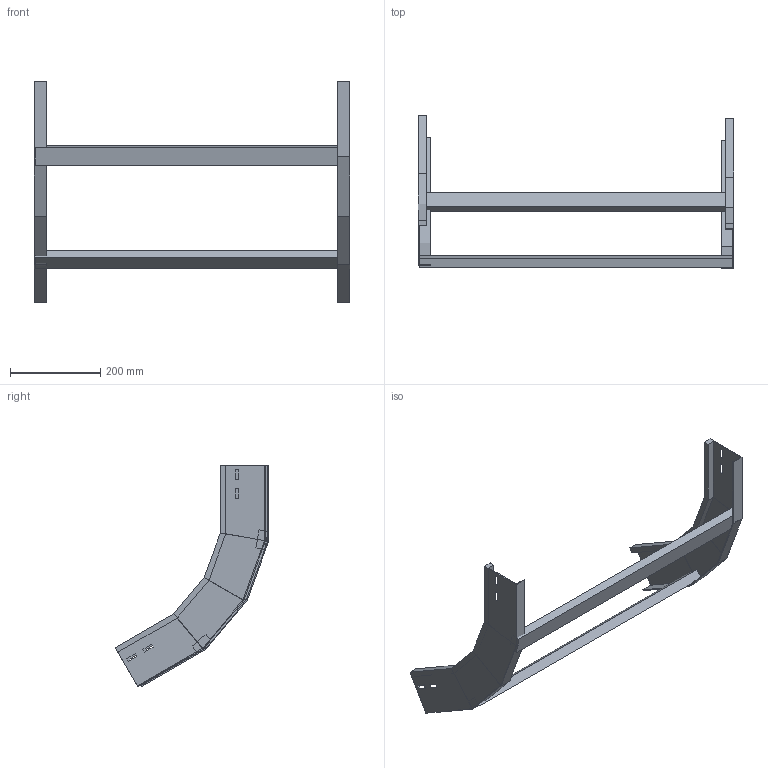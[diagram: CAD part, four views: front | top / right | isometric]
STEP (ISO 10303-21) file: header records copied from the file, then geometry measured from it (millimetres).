
FILE_DESCRIPTION (( 'STEP AP214' ), '1' );
FILE_NAME ('A2X40B3D700XX.step', '2025-04-02T09:48:44', ( '' ), ( '' ), 'SwSTEP 2.0', 'SolidWorks 2023', '' );
FILE_SCHEMA (( 'AUTOMOTIVE_DESIGN' ));
Length unit declared in the file: millimetre
Products named in the file (3): LONGH.SALITA_60°_H100_R300; TRAVERSINO_700; A2X40B3D700XX
Assembly tree (4 placements, depth 2):
  A2X40B3D700XX
    LONGH.SALITA_60°_H100_R300  x2
    TRAVERSINO_700  x2
Bounding box: 700 x 340.82 x 490.76 mm (x, y, z)
Volume: 1609970 mm3; surface area: 496088.7 mm2
Topology: 4 solids, 4 shells, 112 faces, 264 edges, 160 vertices
Faces by surface type: plane 112
Entity records: 1664 total; most frequent: CARTESIAN_POINT 275, ORIENTED_EDGE 264, DIRECTION 258, EDGE_CURVE 132, LINE 132, VECTOR 132, VERTEX_POINT 80, EDGE_LOOP 64
